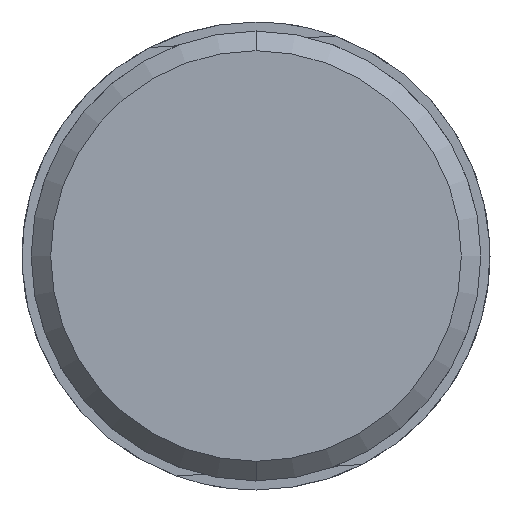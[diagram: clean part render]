
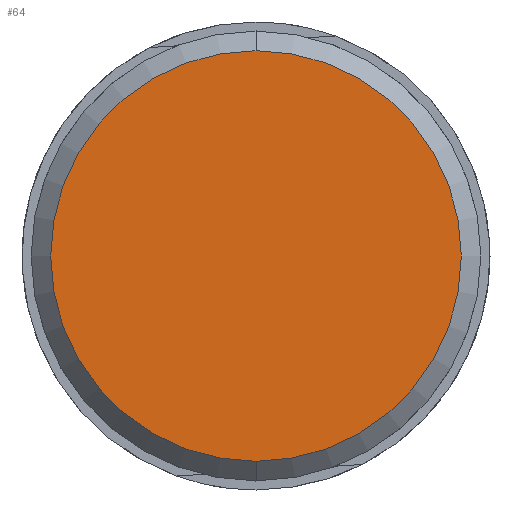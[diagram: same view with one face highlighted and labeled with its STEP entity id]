
A CAD part, front view. The second image highlights one B-rep face of the part: STEP entity #64.
In plain terms, the highlighted planar face has unit normal (0, -1, 0).
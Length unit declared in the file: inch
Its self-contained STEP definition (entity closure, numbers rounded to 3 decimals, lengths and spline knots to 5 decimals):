
#14 = FACE_OUTER_BOUND ( 'NONE', #1061, .T. ) ;
#64 = ADVANCED_FACE ( 'NONE', ( #14 ), #312, .T. ) ;
#137 = EDGE_CURVE ( 'NONE', #1296, #1277, #909, .T. ) ;
#145 = EDGE_CURVE ( 'NONE', #1277, #1296, #1231, .T. ) ;
#212 = AXIS2_PLACEMENT_3D ( 'NONE', #290, #395, #414 ) ;
#235 = AXIS2_PLACEMENT_3D ( 'NONE', #1344, #1343, #1342 ) ;
#240 = AXIS2_PLACEMENT_3D ( 'NONE', #546, #547, #548 ) ;
#290 = CARTESIAN_POINT ( 'NONE',  ( -1.46594, 0.22051, 0. ) ) ;
#312 = PLANE ( 'NONE',  #212 ) ;
#395 = DIRECTION ( 'NONE',  ( 0., -1., 0. ) ) ;
#414 = DIRECTION ( 'NONE',  ( 0., 0., -1. ) ) ;
#546 = CARTESIAN_POINT ( 'NONE',  ( -1.99044, 0.22051, 0. ) ) ;
#547 = DIRECTION ( 'NONE',  ( 0., -1., 0. ) ) ;
#548 = DIRECTION ( 'NONE',  ( 0., 0., 1. ) ) ;
#909 = CIRCLE ( 'NONE', #235, 0.658 ) ;
#1061 = EDGE_LOOP ( 'NONE', ( #1106, #1152 ) ) ;
#1106 = ORIENTED_EDGE ( 'NONE', *, *, #137, .T. ) ;
#1152 = ORIENTED_EDGE ( 'NONE', *, *, #145, .T. ) ;
#1182 = CARTESIAN_POINT ( 'NONE',  ( -1.99044, 0.22051, -0.658 ) ) ;
#1196 = CARTESIAN_POINT ( 'NONE',  ( -1.99044, 0.22051, 0.658 ) ) ;
#1231 = CIRCLE ( 'NONE', #240, 0.658 ) ;
#1277 = VERTEX_POINT ( 'NONE', #1182 ) ;
#1296 = VERTEX_POINT ( 'NONE', #1196 ) ;
#1342 = DIRECTION ( 'NONE',  ( 0., 0., 1. ) ) ;
#1343 = DIRECTION ( 'NONE',  ( 0., -1., 0. ) ) ;
#1344 = CARTESIAN_POINT ( 'NONE',  ( -1.99044, 0.22051, 0. ) ) ;
